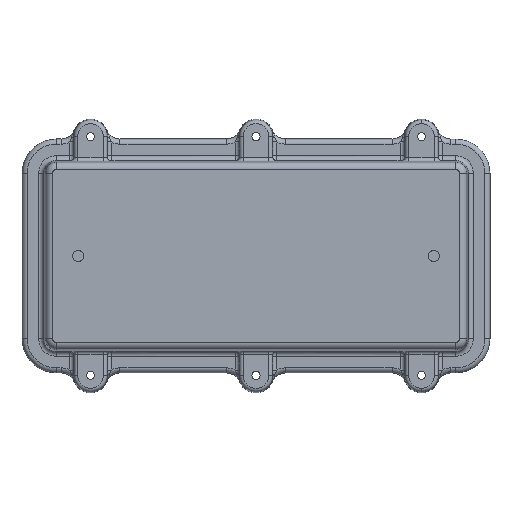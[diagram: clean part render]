
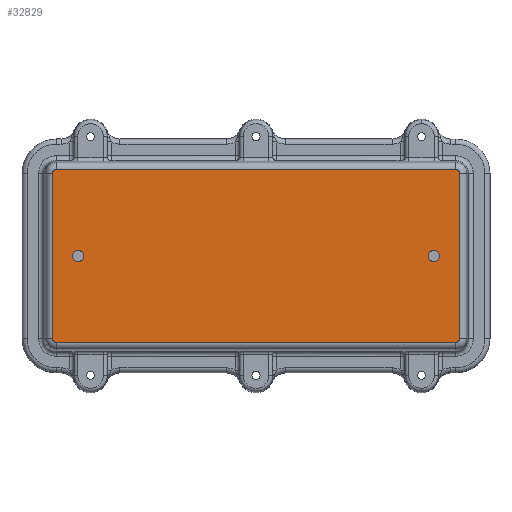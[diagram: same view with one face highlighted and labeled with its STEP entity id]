
A CAD part, front view. The second image highlights one B-rep face of the part: STEP entity #32829.
In plain terms, the highlighted planar face has unit normal (0, -1, 0).
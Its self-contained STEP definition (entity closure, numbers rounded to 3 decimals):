
#167 = CIRCLE ( 'NONE', #11993, 1.409 ) ;
#846 = EDGE_CURVE ( 'NONE', #15201, #24621, #15562, .T. ) ;
#2456 = DIRECTION ( 'NONE',  ( 0., 0., -1. ) ) ;
#2515 = FACE_BOUND ( 'NONE', #9560, .T. ) ;
#2667 = CARTESIAN_POINT ( 'NONE',  ( 82., -29.9, -34. ) ) ;
#2726 = CARTESIAN_POINT ( 'NONE',  ( -73., -29.9, -2.35 ) ) ;
#2943 = DIRECTION ( 'NONE',  ( 0., -1., 0. ) ) ;
#3199 = DIRECTION ( 'NONE',  ( 0., -1., 0. ) ) ;
#3323 = CARTESIAN_POINT ( 'NONE',  ( -73., -29.9, 0. ) ) ;
#3451 = CARTESIAN_POINT ( 'NONE',  ( 73., -29.9, 2.35 ) ) ;
#3699 = DIRECTION ( 'NONE',  ( 0., 0., -1. ) ) ;
#3740 = FACE_BOUND ( 'NONE', #24805, .T. ) ;
#3904 = VERTEX_POINT ( 'NONE', #33247 ) ;
#4332 = CARTESIAN_POINT ( 'NONE',  ( 83.409, -29.9, 34. ) ) ;
#5194 = CARTESIAN_POINT ( 'NONE',  ( 82., -29.9, -35.409 ) ) ;
#5429 = ORIENTED_EDGE ( 'NONE', *, *, #18287, .F. ) ;
#5841 = CIRCLE ( 'NONE', #32137, 1.409 ) ;
#6154 = VERTEX_POINT ( 'NONE', #14719 ) ;
#6753 = CIRCLE ( 'NONE', #28708, 1.409 ) ;
#7007 = EDGE_CURVE ( 'NONE', #6154, #3904, #18252, .T. ) ;
#7163 = ORIENTED_EDGE ( 'NONE', *, *, #846, .F. ) ;
#7706 = AXIS2_PLACEMENT_3D ( 'NONE', #20904, #2943, #23294 ) ;
#7839 = LINE ( 'NONE', #33103, #9862 ) ;
#7915 = EDGE_CURVE ( 'NONE', #17554, #6154, #28596, .T. ) ;
#8126 = PLANE ( 'NONE',  #7706 ) ;
#9326 = CARTESIAN_POINT ( 'NONE',  ( -82., -29.9, 35.409 ) ) ;
#9560 = EDGE_LOOP ( 'NONE', ( #32709, #5429 ) ) ;
#9827 = DIRECTION ( 'NONE',  ( 0., 0., 1. ) ) ;
#9862 = VECTOR ( 'NONE', #30650, 1000. ) ;
#10069 = DIRECTION ( 'NONE',  ( 0., -1., 0. ) ) ;
#10668 = AXIS2_PLACEMENT_3D ( 'NONE', #15547, #3199, #13317 ) ;
#10857 = AXIS2_PLACEMENT_3D ( 'NONE', #21862, #11786, #3699 ) ;
#11125 = DIRECTION ( 'NONE',  ( 0., 0., 1. ) ) ;
#11419 = ORIENTED_EDGE ( 'NONE', *, *, #7915, .T. ) ;
#11786 = DIRECTION ( 'NONE',  ( 0., -1., 0. ) ) ;
#11993 = AXIS2_PLACEMENT_3D ( 'NONE', #16956, #26944, #13960 ) ;
#12324 = CARTESIAN_POINT ( 'NONE',  ( -82., -29.9, 35.409 ) ) ;
#12414 = CARTESIAN_POINT ( 'NONE',  ( -73., -29.9, 2.35 ) ) ;
#12418 = CARTESIAN_POINT ( 'NONE',  ( -82., -29.9, 34. ) ) ;
#12481 = VERTEX_POINT ( 'NONE', #30116 ) ;
#12689 = DIRECTION ( 'NONE',  ( 0., -1., 0. ) ) ;
#13317 = DIRECTION ( 'NONE',  ( 0., 0., -1. ) ) ;
#13934 = VERTEX_POINT ( 'NONE', #3451 ) ;
#13960 = DIRECTION ( 'NONE',  ( 0., 0., -1. ) ) ;
#14280 = EDGE_CURVE ( 'NONE', #26823, #26550, #6753, .T. ) ;
#14309 = ORIENTED_EDGE ( 'NONE', *, *, #7007, .T. ) ;
#14641 = CARTESIAN_POINT ( 'NONE',  ( 73., -29.9, -2.35 ) ) ;
#14719 = CARTESIAN_POINT ( 'NONE',  ( -82., -29.9, -35.409 ) ) ;
#15201 = VERTEX_POINT ( 'NONE', #12414 ) ;
#15381 = FACE_OUTER_BOUND ( 'NONE', #22905, .T. ) ;
#15547 = CARTESIAN_POINT ( 'NONE',  ( -82., -29.9, -34. ) ) ;
#15562 = CIRCLE ( 'NONE', #22047, 2.35 ) ;
#15956 = VECTOR ( 'NONE', #25347, 1000. ) ;
#16152 = EDGE_CURVE ( 'NONE', #26550, #17554, #7839, .T. ) ;
#16956 = CARTESIAN_POINT ( 'NONE',  ( 82., -29.9, 34. ) ) ;
#17437 = CARTESIAN_POINT ( 'NONE',  ( -83.409, -29.9, 34. ) ) ;
#17554 = VERTEX_POINT ( 'NONE', #29289 ) ;
#18183 = DIRECTION ( 'NONE',  ( 1., 0., 0. ) ) ;
#18234 = DIRECTION ( 'NONE',  ( 0., 0., -1. ) ) ;
#18252 = LINE ( 'NONE', #5194, #19057 ) ;
#18287 = EDGE_CURVE ( 'NONE', #13934, #24454, #31789, .T. ) ;
#19057 = VECTOR ( 'NONE', #18183, 1000. ) ;
#19188 = ORIENTED_EDGE ( 'NONE', *, *, #14280, .T. ) ;
#19215 = ORIENTED_EDGE ( 'NONE', *, *, #31313, .T. ) ;
#19362 = EDGE_CURVE ( 'NONE', #12481, #25634, #30916, .T. ) ;
#19492 = ORIENTED_EDGE ( 'NONE', *, *, #20344, .T. ) ;
#20344 = EDGE_CURVE ( 'NONE', #32118, #26823, #29168, .T. ) ;
#20893 = EDGE_CURVE ( 'NONE', #24621, #15201, #21434, .T. ) ;
#20904 = CARTESIAN_POINT ( 'NONE',  ( -82., -29.9, 34. ) ) ;
#21280 = DIRECTION ( 'NONE',  ( 0., -1., 0. ) ) ;
#21323 = DIRECTION ( 'NONE',  ( 0., -1., 0. ) ) ;
#21331 = DIRECTION ( 'NONE',  ( 0., -1., 0. ) ) ;
#21434 = CIRCLE ( 'NONE', #10857, 2.35 ) ;
#21759 = CARTESIAN_POINT ( 'NONE',  ( 73., -29.9, 0. ) ) ;
#21862 = CARTESIAN_POINT ( 'NONE',  ( -73., -29.9, 0. ) ) ;
#22047 = AXIS2_PLACEMENT_3D ( 'NONE', #3323, #21280, #18234 ) ;
#22879 = DIRECTION ( 'NONE',  ( 0., 0., -1. ) ) ;
#22905 = EDGE_LOOP ( 'NONE', ( #23447, #19492, #19188, #27433, #11419, #14309, #19215, #23240 ) ) ;
#23077 = CARTESIAN_POINT ( 'NONE',  ( 82., -29.9, 35.409 ) ) ;
#23240 = ORIENTED_EDGE ( 'NONE', *, *, #19362, .T. ) ;
#23294 = DIRECTION ( 'NONE',  ( 0., 0., -1. ) ) ;
#23447 = ORIENTED_EDGE ( 'NONE', *, *, #31058, .T. ) ;
#24028 = DIRECTION ( 'NONE',  ( 0., 0., 1. ) ) ;
#24454 = VERTEX_POINT ( 'NONE', #14641 ) ;
#24621 = VERTEX_POINT ( 'NONE', #2726 ) ;
#24742 = AXIS2_PLACEMENT_3D ( 'NONE', #21759, #21331, #11125 ) ;
#24805 = EDGE_LOOP ( 'NONE', ( #24826, #7163 ) ) ;
#24826 = ORIENTED_EDGE ( 'NONE', *, *, #20893, .F. ) ;
#25347 = DIRECTION ( 'NONE',  ( -1., 0., 0. ) ) ;
#25634 = VERTEX_POINT ( 'NONE', #28682 ) ;
#26550 = VERTEX_POINT ( 'NONE', #17437 ) ;
#26780 = EDGE_CURVE ( 'NONE', #24454, #13934, #29500, .T. ) ;
#26823 = VERTEX_POINT ( 'NONE', #9326 ) ;
#26944 = DIRECTION ( 'NONE',  ( 0., -1., 0. ) ) ;
#27433 = ORIENTED_EDGE ( 'NONE', *, *, #16152, .T. ) ;
#27699 = AXIS2_PLACEMENT_3D ( 'NONE', #28873, #21323, #24028 ) ;
#27712 = VECTOR ( 'NONE', #9827, 1000. ) ;
#28596 = CIRCLE ( 'NONE', #10668, 1.409 ) ;
#28682 = CARTESIAN_POINT ( 'NONE',  ( 83.409, -29.9, 34. ) ) ;
#28708 = AXIS2_PLACEMENT_3D ( 'NONE', #12418, #10069, #22879 ) ;
#28873 = CARTESIAN_POINT ( 'NONE',  ( 73., -29.9, 0. ) ) ;
#29168 = LINE ( 'NONE', #12324, #15956 ) ;
#29289 = CARTESIAN_POINT ( 'NONE',  ( -83.409, -29.9, -34. ) ) ;
#29500 = CIRCLE ( 'NONE', #24742, 2.35 ) ;
#30116 = CARTESIAN_POINT ( 'NONE',  ( 83.409, -29.9, -34. ) ) ;
#30650 = DIRECTION ( 'NONE',  ( 0., 0., -1. ) ) ;
#30916 = LINE ( 'NONE', #4332, #27712 ) ;
#31058 = EDGE_CURVE ( 'NONE', #25634, #32118, #167, .T. ) ;
#31313 = EDGE_CURVE ( 'NONE', #3904, #12481, #5841, .T. ) ;
#31789 = CIRCLE ( 'NONE', #27699, 2.35 ) ;
#32118 = VERTEX_POINT ( 'NONE', #23077 ) ;
#32137 = AXIS2_PLACEMENT_3D ( 'NONE', #2667, #12689, #2456 ) ;
#32709 = ORIENTED_EDGE ( 'NONE', *, *, #26780, .F. ) ;
#32829 = ADVANCED_FACE ( 'NONE', ( #3740, #2515, #15381 ), #8126, .T. ) ;
#33103 = CARTESIAN_POINT ( 'NONE',  ( -83.409, -29.9, -34. ) ) ;
#33247 = CARTESIAN_POINT ( 'NONE',  ( 82., -29.9, -35.409 ) ) ;
